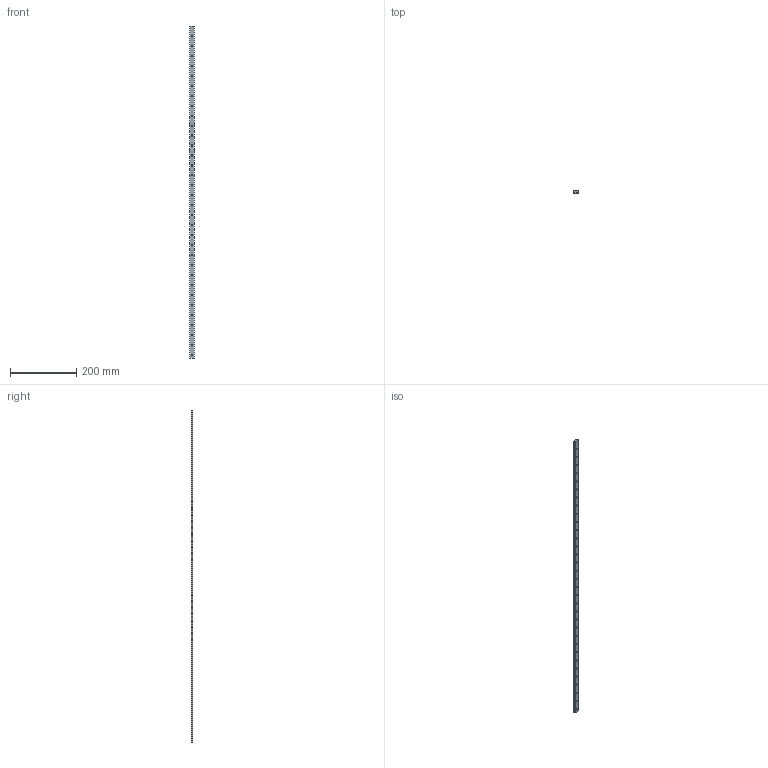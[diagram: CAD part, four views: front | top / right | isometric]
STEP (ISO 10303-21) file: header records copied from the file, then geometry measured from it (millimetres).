
FILE_DESCRIPTION (( 'STEP AP214' ), '1' );
FILE_NAME ('2.0017 Lineaarijohde MGW7 1000 mm.STEP', '2024-04-22T10:14:36', ( '' ), ( '' ), 'SwSTEP 2.0', 'SolidWorks 2024', '' );
FILE_SCHEMA (( 'AUTOMOTIVE_DESIGN' ));
Length unit declared in the file: millimetre
Products named in the file (1): 2.0017 Lineaarijohde MGW7 1000 mm
Bounding box: 14 x 5.2 x 1000 mm (x, y, z)
Volume: 67147.4 mm3; surface area: 41944.6 mm2
Topology: 1 solids, 1 shells, 180 faces, 435 edges, 290 vertices
Faces by surface type: cylinder 135, plane 45
Entity records: 5564 total; most frequent: DIRECTION 1067, CARTESIAN_POINT 906, ORIENTED_EDGE 870, AXIS2_PLACEMENT_3D 451, EDGE_CURVE 435, VERTEX_POINT 290, EDGE_LOOP 279, CIRCLE 270
